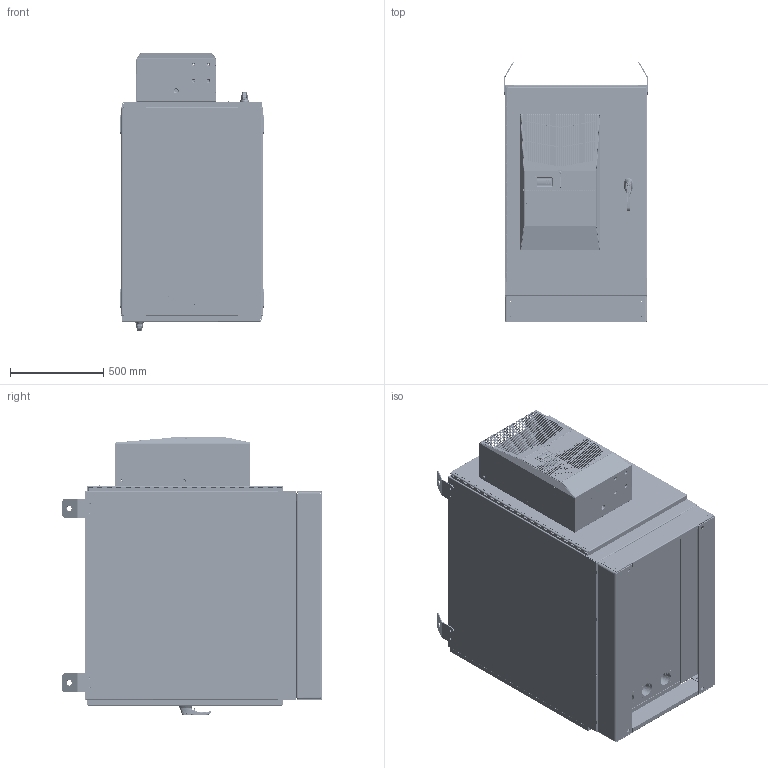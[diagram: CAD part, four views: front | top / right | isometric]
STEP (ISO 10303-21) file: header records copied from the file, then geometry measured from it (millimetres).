
FILE_DESCRIPTION (( 'STEP AP203' ), '1' );
FILE_NAME ('t503044fttxdasa.STEP', '2023-07-13T17:35:25', ( '' ), ( '' ), 'SwSTEP 2.0', 'SolidWorks 2020', '' );
FILE_SCHEMA (( 'CONFIG_CONTROL_DESIGN' ));
Length unit declared in the file: inch
Products named in the file (109): 87558344_Installed; 89114567_87920584; t503044fttxdasa; 26274010_26274010; 87561605_As Purchased; 87560090; 99404049_99404049; 20972; 99404050_99404050; 89114572_89050096; 89116361_Insulation studs trimmed; 89116490_87920582; 89114570_89049942; 87402762; 27301003; 89116367; 89114569_87920586; 99411365_99411365; 89049938_50 INCH FIP; 89114571_89049943; 89075653; 89116492_89049940; 89114577; 22108007; 89116487_89049937; 30101003; 89116473; 89116486_89049936; 89050084; 89116359; 89116360; 89048721; 87560141; 89114564; 27115001; 87561705_87561705; 99405026_99405026; 89116491_87920580; 22318002; 89114568_89049941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
Assembly tree (210 placements, depth 5):
  t503044fttxdasa
    89116494_87920578
      89116492_89049940
        89116490_87920582
        99415470_99415470  x7
        99404050_99404050  x4
        87920592_87920592
        87920598_87920598  x2
        87561705_87561705  x4
        89114564  x2
        87561605_As Purchased
        87561605_As Purchased
        87561605_As Purchased
        87561605_As Purchased
        87561605_As Purchased
        87561605_As Purchased
        87561605_As Purchased
        87561605_As Purchased
        87561605_As Purchased
        87561605_As Purchased
        87561605_As Purchased
      89114568_89049941
        89114567_87920584
        99404049_99404049  x8
      89116493_89049939
        89116491_87920580
        99404050_99404050  x2
        99415470_99415470  x7
        87920592_87920592
        87920598_87920598  x2
        87561705_87561705  x4
        89114564  x2
        87561605_As Purchased
        87561605_As Purchased
        87561605_As Purchased
        87561605_As Purchased
        87561605_As Purchased
        87561605_As Purchased
        87561605_As Purchased
        87561605_As Purchased
        87561605_As Purchased
        87561605_As Purchased
        87561605_As Purchased
        87561605_As Purchased
      89114570_89049942
        89114569_87920586
      89114572_89050096  x2
        89114571_89049943
        99404151_PEM CLS-0420-1 ---N
    87578925_87578925  x2
    89116487_89049937
      89116486_89049936
        89116485_87920576
        99404049_99404049  x4
        27301003  x2
      22108007
      87560090
      26274010_26274010
        26273010_26273010
        30101003  x2
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Bounding box: 771.55 x 1394.5 x 1493.56 mm (x, y, z)
Volume: 77081334.6 mm3; surface area: 28813461.7 mm2
Topology: 225 solids, 238 shells, 25913 faces, 71102 edges, 46231 vertices
Faces by surface type: plane 13450, cylinder 8229, cone 1836, bspline 1644, torus 674, sphere 80
Entity records: 485618 total; most frequent: CARTESIAN_POINT 143692, ORIENTED_EDGE 69443, DIRECTION 65392, EDGE_CURVE 34742, VERTEX_POINT 22538, AXIS2_PLACEMENT_3D 22033, LINE 21326, VECTOR 21326
